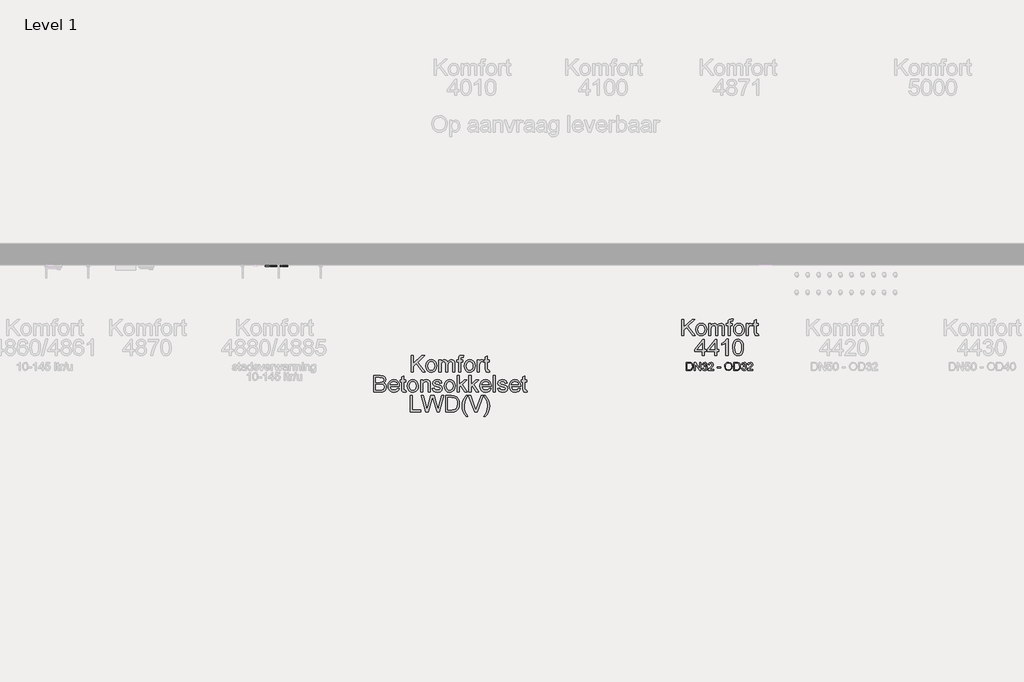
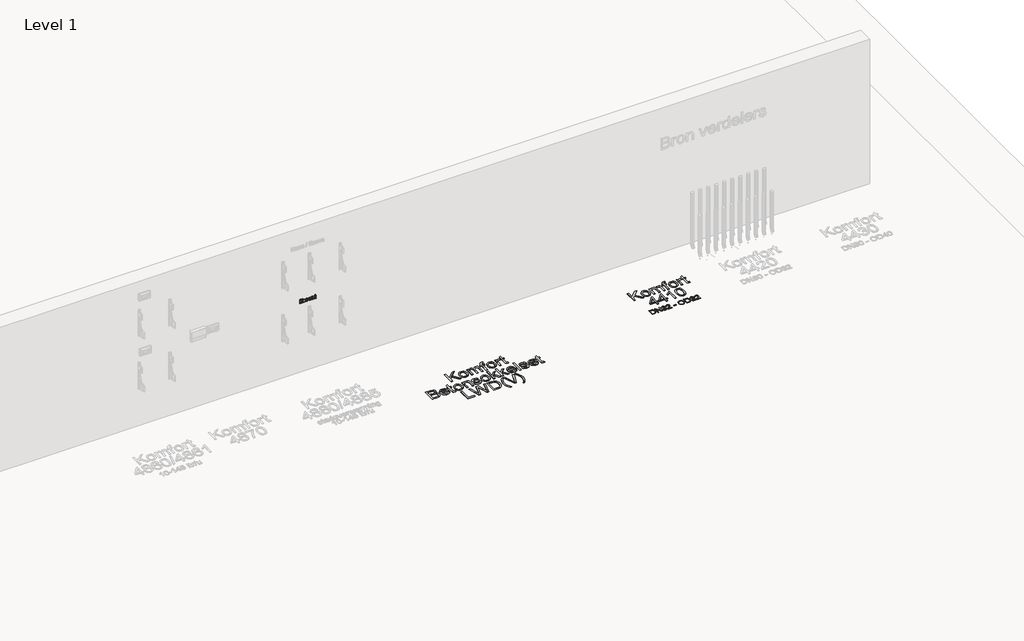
# One storey, part 26 of 34: 4 proxies.
"""IFC4 building model written with IfcOpenShell, lengths in millimetres."""

import ifcopenshell
import ifcopenshell.guid

model = None  # the IFC model being written
_history = None  # IfcOwnerHistory: only IFC2X3 demands one
_inside = {}  # id of a spatial element -> (the spatial element, [elements in it])
_under = {}  # id of a project, library or spatial element -> (it, [spatial elements below it])
_declared = {}  # id of a project -> (the project, [libraries it declares])
_typed = {}  # id of a type object -> (the type object, [elements of that type])
_made_of = {}  # id of a material, layer set ... -> (it, [elements and type objects made of it])


def new_model(schema):
    """Start an empty IFC model of exactly this schema.

    Asked for "IFC4X3", IfcOpenShell would pick the latest addendum, in which some entities
    have other attributes; the version numbers below select the first issue.
    IFC2X3 requires an IfcOwnerHistory on every rooted entity: one is made here for all.
    """
    global model, _history
    if schema == "IFC4X3":
        model = ifcopenshell.file(schema_version=(4, 3, 0, 0))
    else:
        model = ifcopenshell.file(schema=schema)
    _inside.clear()
    _under.clear()
    _declared.clear()
    _typed.clear()
    _made_of.clear()
    _history = None
    if model.schema == "IFC2X3":
        org = make("IfcOrganization", Name="unknown")
        user = make(
            "IfcPersonAndOrganization",
            ThePerson=make("IfcPerson", FamilyName="unknown"),
            TheOrganization=org,
        )
        app = make(
            "IfcApplication",
            ApplicationDeveloper=org,
            Version="unknown",
            ApplicationFullName="unknown",
            ApplicationIdentifier="unknown",
        )
        _history = make(
            "IfcOwnerHistory",
            OwningUser=user,
            OwningApplication=app,
            ChangeAction="ADDED",
            CreationDate=0,
        )
    return model


def make(cls, **values):
    """One entity of the class cls with the attributes given. An attribute that is None is left unset."""
    return model.create_entity(
        cls, **{name: value for name, value in values.items() if value is not None}
    )


def rooted(cls, **values):
    """An entity with a GlobalId (a new one), such as an element, a storey or a relation."""
    return make(cls, GlobalId=ifcopenshell.guid.new(), OwnerHistory=_history, **values)


def si_unit(unit_type, name, prefix=None):
    """IfcSIUnit, for example si_unit("LENGTHUNIT", "METRE", prefix="MILLI")."""
    return make("IfcSIUnit", UnitType=unit_type, Prefix=prefix, Name=name)


def assignment(units):
    """IfcUnitAssignment: the units of a project."""
    return None if units is None else make("IfcUnitAssignment", Units=units)


def point(xyz):
    """IfcCartesianPoint."""
    return None if xyz is None else make("IfcCartesianPoint", Coordinates=xyz)


def direction(xyz):
    """IfcDirection."""
    return None if xyz is None else make("IfcDirection", DirectionRatios=xyz)


def frame(location, z_axis=None, x_axis=None):
    """IfcAxis2Placement3D, a coordinate frame: its origin and axes. An axis left out is left unset."""
    return make(
        "IfcAxis2Placement3D",
        Location=point(location),
        Axis=direction(z_axis),
        RefDirection=direction(x_axis),
    )


def origin():
    """The frame at (0, 0, 0) with its axes left unset."""
    return frame((0.0, 0.0, 0.0))


def origin_with_axes():
    """The frame at (0, 0, 0) with the z axis (0, 0, 1) and the x axis (1, 0, 0) written out."""
    return frame((0.0, 0.0, 0.0), z_axis=(0.0, 0.0, 1.0), x_axis=(1.0, 0.0, 0.0))


def place(relative_to, where):
    """IfcLocalPlacement: puts the frame where relative to a parent placement (None: the world)."""
    return make(
        "IfcLocalPlacement", PlacementRelTo=relative_to, RelativePlacement=where
    )


def context(
    kind, dimensions, precision=None, world=None, true_north=None, identifier=None
):
    """IfcGeometricRepresentationContext, for example the 3D "Model" context."""
    return make(
        "IfcGeometricRepresentationContext",
        ContextIdentifier=identifier,
        ContextType=kind,
        CoordinateSpaceDimension=dimensions,
        Precision=precision,
        WorldCoordinateSystem=world,
        TrueNorth=true_north,
    )


def project(units=None, contexts=None):
    """IfcProject with its units and contexts."""
    return rooted(
        "IfcProject",
        Name="project",
        RepresentationContexts=contexts,
        UnitsInContext=assignment(units),
    )


def spatial(cls, under=None, at=None, **own):
    """A site, building, storey or space (cls), placed at a placement, below another one or the project."""
    s = rooted(cls, ObjectPlacement=at, **own)
    if under is not None:
        _under.setdefault(under.id(), (under, []))[1].append(s)
    return s


def polyline(points):
    """IfcPolyline through the points."""
    return make("IfcPolyline", Points=[point(p) for p in points])


def outline(outer, holes=None, kind="AREA"):
    """IfcArbitraryClosedProfileDef: a profile drawn as a closed curve; with holes, ...WithVoids."""
    if holes is None:
        return make("IfcArbitraryClosedProfileDef", ProfileType=kind, OuterCurve=outer)
    return make(
        "IfcArbitraryProfileDefWithVoids",
        ProfileType=kind,
        OuterCurve=outer,
        InnerCurves=holes,
    )


def extrude(swept, where, along, depth):
    """IfcExtrudedAreaSolid: the profile swept, set in the frame where, extruded along a direction by depth."""
    return make(
        "IfcExtrudedAreaSolid",
        SweptArea=swept,
        Position=where,
        ExtrudedDirection=direction(along),
        Depth=depth,
    )


def shape(context_of_items, identifier, shape_type, items):
    """IfcShapeRepresentation: the items that make up one representation, for example the "Body"."""
    return make(
        "IfcShapeRepresentation",
        ContextOfItems=context_of_items,
        RepresentationIdentifier=identifier,
        RepresentationType=shape_type,
        Items=items,
    )


def made_of(thing, what):
    """Note that an element or type object is made of a material, layer set ...; save() writes the relation."""
    if what is not None:
        _made_of.setdefault(what.id(), (what, []))[1].append(thing)
    return thing


def element(
    cls,
    number,
    at=None,
    inside=None,
    cuts=None,
    type_object=None,
    material=None,
    context=None,
    identifier="Body",
    shape_type=None,
    held_by="IfcProductDefinitionShape",
    body=None,
    shapes=None,
    **own,
):
    """One element of the class cls, such as IfcWall. Its Tag is "e" and its number.

    at: its placement. inside: the storey or other place that contains it. cuts: it is an
    opening in that element (IfcRelVoidsElement). A single representation is given by context,
    identifier, shape_type and body (its items); several are given by shapes. held_by: the class
    of the entity that holds the representations. save() writes the other relations.
    """
    e = rooted(cls, Tag="e%d" % number, ObjectPlacement=at, **own)
    if body is not None:
        shapes = [shape(context, identifier, shape_type, body)]
    if shapes is not None:
        e.Representation = make(held_by, Representations=shapes)
    if inside is not None:
        _inside.setdefault(inside.id(), (inside, []))[1].append(e)
    if cuts is not None:
        rooted(
            "IfcRelVoidsElement", RelatingBuildingElement=cuts, RelatedOpeningElement=e
        )
    if type_object is not None:
        _typed.setdefault(type_object.id(), (type_object, []))[1].append(e)
    return made_of(e, material)


def aggregate(whole, parts):
    """IfcRelAggregates: a whole, such as a stair, and the parts it consists of."""
    return rooted("IfcRelAggregates", RelatingObject=whole, RelatedObjects=parts)


def save(model, path):
    """Write the relations noted so far, then the file.

    IfcRelAggregates (storeys below a building ...), IfcRelContainedInSpatialStructure (elements
    in a storey), IfcRelDefinesByType, IfcRelAssociatesMaterial and IfcRelDeclares: one each for
    every whole, place, type object, material and project.
    """
    for whole, parts in _under.values():
        aggregate(whole, parts)
    for where, things in _inside.values():
        rooted(
            "IfcRelContainedInSpatialStructure",
            RelatedElements=things,
            RelatingStructure=where,
        )
    for kind, things in _typed.values():
        rooted("IfcRelDefinesByType", RelatedObjects=things, RelatingType=kind)
    for what, things in _made_of.values():
        rooted("IfcRelAssociatesMaterial", RelatedObjects=things, RelatingMaterial=what)
    for by, libraries in _declared.values():
        rooted("IfcRelDeclares", RelatingContext=by, RelatedDefinitions=libraries)
    model.write(path)


model = new_model("IFC4")

# Units and contexts
model_context = context("Model", 3, world=origin())
ifc_project = project(units=[si_unit("LENGTHUNIT", "METRE", prefix="MILLI")], contexts=[model_context])

# Site, building, storey
site = spatial("IfcSite", under=ifc_project)
building = spatial("IfcBuilding", under=site)
storey = spatial("IfcBuildingStorey", under=building, Name="Level 1", Elevation=0.0)

# Proxies
placement = place(None, origin())
element("IfcBuildingElementProxy", 1, Name="klein", ObjectType="klein", at=placement, inside=storey, context=model_context, shape_type="SweptSolid", body=[
    extrude(outline(polyline([(913.6596097, -4322.738943), (913.6596097, -4286.5850968), (919.8134559, -4286.5850968), (919.8134559, -4316.5850968), (935.9673021, -4316.5850968), (935.9673021, -4288.8927892), (942.1211482, -4288.8927892), (942.1211482, -4316.5850968), (956.7365328, -4316.5850968), (956.7365328, -4287.3543276), (962.890379, -4287.3543276), (962.890379, -4322.738943), (913.6596097, -4322.738943)])), frame((0.0, 7579.9863889, 0.0), z_axis=(0.0, 1.0, 0.0), x_axis=(0.0, 0.0, 1.0)), (0.0, 0.0, 1.0), 10.0),
    extrude(outline(polyline([(924.4288405, -4280.4312507), (915.7990328, -4275.7197122), (912.890379, -4264.9865392), (914.3987924, -4257.3663468), (918.671629, -4252.2161065), (924.5610521, -4250.4312507), (929.9096097, -4251.9516834), (933.1908597, -4256.1463949), (936.0874944, -4265.1788468), (937.3975905, -4270.4793276), (938.7557636, -4272.7750007), (940.546629, -4273.5081738), (943.2629751, -4271.7413468), (944.4288405, -4265.8519238), (943.2088886, -4260.4372603), (939.8134559, -4258.1235584), (940.5826867, -4251.9697122), (946.1055232, -4254.0850968), (949.374754, -4258.8447122), (950.5826867, -4266.332693), (949.8314847, -4271.6271642), (948.0105713, -4275.5394238), (944.5069655, -4278.5562507), (939.921629, -4279.6620199), (934.9576867, -4278.285818), (931.4420617, -4274.2413468), (928.4312444, -4264.9745199), (926.6764367, -4258.6403853), (923.9120136, -4256.5850968), (920.4985521, -4258.6283661), (919.0442251, -4264.9024045), (920.6307636, -4271.4288468), (925.1980713, -4274.2774045), (924.4288405, -4280.4312507)])), frame((0.0, 7579.9863889, 0.0), z_axis=(0.0, 1.0, 0.0), x_axis=(0.0, 0.0, 1.0)), (0.0, 0.0, 1.0), 10.0),
    extrude(outline(polyline([(924.4288405, -4245.8158661), (915.7990328, -4241.1043276), (912.890379, -4230.3711545), (914.3987924, -4222.7509622), (918.671629, -4217.6007218), (924.5610521, -4215.8158661), (929.9096097, -4217.3362988), (933.1908597, -4221.5310103), (936.0874944, -4230.5634622), (937.3975905, -4235.863943), (938.7557636, -4238.1596161), (940.546629, -4238.8927892), (943.2629751, -4237.1259622), (944.4288405, -4231.2365392), (943.2088886, -4225.8218757), (939.8134559, -4223.5081738), (940.5826867, -4217.3543276), (946.1055232, -4219.4697122), (949.374754, -4224.2293276), (950.5826867, -4231.7173084), (949.8314847, -4237.0117795), (948.0105713, -4240.9240392), (944.5069655, -4243.9408661), (939.921629, -4245.0466353), (934.9576867, -4243.6704334), (931.4420617, -4239.6259622), (928.4312444, -4230.3591353), (926.6764367, -4224.0250007), (923.9120136, -4221.9697122), (920.4985521, -4224.0129815), (919.0442251, -4230.2870199), (920.6307636, -4236.8134622), (925.1980713, -4239.6620199), (924.4288405, -4245.8158661)])), frame((0.0, 7579.9863889, 0.0), z_axis=(0.0, 1.0, 0.0), x_axis=(0.0, 0.0, 1.0)), (0.0, 0.0, 1.0), 10.0),
    extrude(outline(polyline([(924.4288405, -4183.5802892), (920.3302828, -4187.5466353), (919.0442251, -4193.5802892), (921.8206674, -4201.5069718), (929.8134559, -4205.0466353), (929.8134559, -4177.3903853), (931.4721097, -4177.3543276), (945.5706674, -4182.0237988), (950.5826867, -4194.0490392), (945.5586482, -4206.4288468), (931.4360521, -4211.2004815), (917.7641771, -4206.4769238), (912.890379, -4193.7004815), (915.7148982, -4183.1896642), (923.6596097, -4177.5466353), (924.4288405, -4183.5802892)]), holes=[polyline([(935.9673021, -4205.0466353), (942.1271578, -4201.6512026), (944.4288405, -4194.0730776), (941.5442251, -4185.9721161), (935.9673021, -4183.5081738), (935.9673021, -4205.0466353)])]), frame((0.0, 7579.9863889, 0.0), z_axis=(0.0, 1.0, 0.0), x_axis=(0.0, 0.0, 1.0)), (0.0, 0.0, 1.0), 10.0),
    extrude(outline(polyline([(913.6596097, -4171.2004815), (913.6596097, -4165.0466353), (932.8423021, -4165.0466353), (942.0129751, -4162.2401449), (944.4288405, -4155.5634622), (943.3531194, -4151.3387026), (940.4745136, -4148.832693), (935.0298021, -4148.1235584), (913.6596097, -4148.1235584), (913.6596097, -4141.9697122), (935.859129, -4141.9697122), (941.8086482, -4142.2942315), (946.3338886, -4144.1391834), (949.4108117, -4148.1055295), (950.5826867, -4153.9168276), (949.1283597, -4160.3411065), (944.765379, -4165.0466353), (949.8134559, -4165.0466353), (949.8134559, -4171.2004815), (913.6596097, -4171.2004815)])), frame((0.0, 7579.9863889, 0.0), z_axis=(0.0, 1.0, 0.0), x_axis=(0.0, 0.0, 1.0)), (0.0, 0.0, 1.0), 10.0),
    extrude(outline(polyline([(918.7918213, -4120.4312507), (919.0442251, -4123.1115392), (920.5826867, -4126.2605776), (923.7557636, -4126.5850968), (943.6596097, -4126.5850968), (943.6596097, -4120.4312507), (949.8134559, -4120.4312507), (949.8134559, -4126.5850968), (962.2173021, -4126.5850968), (958.5995136, -4132.738943), (949.8134559, -4132.738943), (949.8134559, -4137.3543276), (943.6596097, -4137.3543276), (943.6596097, -4132.738943), (923.5754751, -4132.738943), (916.5923021, -4131.9937507), (913.9120136, -4129.4216353), (912.890379, -4124.2653853), (913.4793213, -4119.6620199), (918.7918213, -4120.4312507)])), frame((0.0, 7579.9863889, 0.0), z_axis=(0.0, 1.0, 0.0), x_axis=(0.0, 0.0, 1.0)), (0.0, 0.0, 1.0), 10.0),
])
element("IfcBuildingElementProxy", 2, Name="DN", ObjectType="DN", at=placement, inside=storey, context=model_context, shape_type="SweptSolid", body=[
    extrude(outline(polyline([(-476.5761735, 6628.0579707), (-476.5761735, 6701.9041245), (-451.1014139, 6701.9041245), (-437.9223273, 6700.8404226), (-427.068962, 6695.5579707), (-418.3249716, 6682.9377784), (-415.4223273, 6665.3776822), (-417.3874716, 6650.4768409), (-422.4355485, 6639.7226341), (-429.178337, 6633.0249178), (-438.0034572, 6629.3199899), (-449.8754523, 6628.0579707), (-476.5761735, 6628.0579707)]), holes=[polyline([(-467.3454043, 6637.2887399), (-451.0112697, 6637.2887399), (-439.13026, 6638.6228745), (-432.2792985, 6642.3909034), (-426.6633129, 6651.5585716), (-424.6530966, 6665.521913), (-428.5923995, 6683.0098937), (-438.1747312, 6691.1949899), (-451.2636735, 6692.6733553), (-467.3454043, 6692.6733553), (-467.3454043, 6637.2887399)])]), origin_with_axes(), (0.0, 0.0, 1.0), 5.0),
    extrude(outline(polyline([(-402.7300197, 6628.0579707), (-402.7300197, 6701.9041245), (-392.850212, 6701.9041245), (-354.2684812, 6643.4005187), (-354.2684812, 6701.9041245), (-345.037712, 6701.9041245), (-345.037712, 6628.0579707), (-354.9175197, 6628.0579707), (-393.4992504, 6686.5796053), (-393.4992504, 6628.0579707), (-402.7300197, 6628.0579707)])), origin_with_axes(), (0.0, 0.0, 1.0), 5.0),
    extrude(outline(polyline([(-332.3454043, 6647.6733553), (-323.114635, 6648.8272014), (-318.021486, 6639.1096534), (-308.4932408, 6636.1348937), (-297.2792985, 6640.2274418), (-293.114635, 6650.3596534), (-297.2432408, 6659.9059274), (-307.7360293, 6663.6829707), (-314.208385, 6662.6733553), (-313.1807408, 6671.9041245), (-301.2276158, 6674.4461918), (-296.5761735, 6682.5952303), (-299.9475677, 6689.8157832), (-308.6374716, 6692.6733553), (-317.4355485, 6689.7887399), (-321.9607889, 6681.1348937), (-331.1915581, 6682.2887399), (-323.6374716, 6696.7659034), (-308.9619908, 6701.9041245), (-297.8291783, 6699.3710716), (-290.0407168, 6692.4479947), (-287.3454043, 6683.1360957), (-289.9055004, 6674.6264803), (-297.4776158, 6668.5147014), (-287.4175197, 6662.2046053), (-283.8838658, 6650.1973937), (-285.6506927, 6641.2009995), (-290.9511735, 6633.6829707), (-298.951474, 6628.598836), (-308.81776, 6626.9041245), (-317.7420389, 6628.3509394), (-325.0076639, 6632.6913841), (-330.060248, 6639.3305067), (-332.3454043, 6647.6733553)])), origin_with_axes(), (0.0, 0.0, 1.0), 5.0),
    extrude(outline(polyline([(-228.4992504, 6637.2887399), (-228.4992504, 6628.0579707), (-276.9607889, 6628.0579707), (-275.9692023, 6634.4221534), (-270.3622312, 6644.2208312), (-258.8057408, 6654.9209514), (-242.8682408, 6670.2995572), (-238.8838658, 6680.756288), (-242.6428802, 6689.2208312), (-252.459587, 6692.6733553), (-262.6909572, 6689.301961), (-266.5761735, 6679.9810476), (-275.8069427, 6681.1348937), (-273.5691122, 6690.0636798), (-268.7306206, 6696.5856149), (-252.2612697, 6701.9041245), (-242.9110593, 6700.4257591), (-235.7378322, 6695.990663), (-231.1742805, 6689.365062), (-229.6530966, 6681.3151822), (-231.2937216, 6672.5621774), (-236.7474475, 6663.5116966), (-249.9716062, 6650.864461), (-260.5905966, 6641.9852543), (-264.75526, 6637.2887399), (-228.4992504, 6637.2887399)])), origin_with_axes(), (0.0, 0.0, 1.0), 5.0),
    extrude(outline(polyline([(-192.7300197, 6649.9810476), (-192.7300197, 6659.2118168), (-163.8838658, 6659.2118168), (-163.8838658, 6649.9810476), (-192.7300197, 6649.9810476)])), origin_with_axes(), (0.0, 0.0, 1.0), 5.0),
    extrude(outline(polyline([(-126.9607889, 6664.0074899), (-124.4998514, 6680.3371173), (-117.1170389, 6692.6913841), (-105.8445028, 6700.466324), (-91.7143947, 6703.0579707), (-73.3430004, 6698.1901822), (-60.8670389, 6684.614461), (-56.5761735, 6664.8548457), (-61.0923995, 6644.8247976), (-73.8928802, 6631.4473937), (-91.7684812, 6626.9041245), (-110.3381927, 6631.9251582), (-122.7420389, 6645.6270812), (-126.9607889, 6664.0074899)]), holes=[polyline([(-117.7300197, 6663.9173457), (-115.8843165, 6652.3653625), (-110.3472072, 6643.5627784), (-102.024641, 6637.9918649), (-91.8225677, 6636.1348937), (-81.4717564, 6638.0098937), (-73.1356687, 6643.6348937), (-67.6391242, 6652.7079106), (-65.8069427, 6664.926961), (-68.943962, 6680.161336), (-78.1116302, 6690.2484755), (-91.6603081, 6693.8272014), (-101.5896951, 6692.103193), (-110.0317023, 6686.9311678), (-115.8054403, 6677.7296954), (-117.7300197, 6663.9173457)])]), origin_with_axes(), (0.0, 0.0, 1.0), 5.0),
    extrude(outline(polyline([(-43.8838658, 6628.0579707), (-43.8838658, 6701.9041245), (-18.4091062, 6701.9041245), (-5.2300197, 6700.8404226), (5.6233457, 6695.5579707), (14.3673361, 6682.9377784), (17.2699803, 6665.3776822), (15.3048361, 6650.4768409), (10.2567592, 6639.7226341), (3.5139707, 6633.0249178), (-5.3111495, 6629.3199899), (-17.1831447, 6628.0579707), (-43.8838658, 6628.0579707)]), holes=[polyline([(-34.6530966, 6637.2887399), (-18.318962, 6637.2887399), (-6.4379523, 6638.6228745), (0.4130092, 6642.3909034), (6.0289948, 6651.5585716), (8.0392111, 6665.521913), (4.0999082, 6683.0098937), (-5.4824235, 6691.1949899), (-18.5713658, 6692.6733553), (-34.6530966, 6692.6733553), (-34.6530966, 6637.2887399)])]), origin_with_axes(), (0.0, 0.0, 1.0), 5.0),
    extrude(outline(polyline([(26.5007496, 6647.6733553), (35.7315188, 6648.8272014), (40.8246678, 6639.1096534), (50.352913, 6636.1348937), (61.5668553, 6640.2274418), (65.7315188, 6650.3596534), (61.602913, 6659.9059274), (51.1101246, 6663.6829707), (44.6377688, 6662.6733553), (45.665413, 6671.9041245), (57.618538, 6674.4461918), (62.2699803, 6682.5952303), (58.8985861, 6689.8157832), (50.2086823, 6692.6733553), (41.4106053, 6689.7887399), (36.885365, 6681.1348937), (27.6545957, 6682.2887399), (35.2086823, 6696.7659034), (49.884163, 6701.9041245), (61.0169755, 6699.3710716), (68.8054371, 6692.4479947), (71.5007496, 6683.1360957), (68.9406534, 6674.6264803), (61.368538, 6668.5147014), (71.4286342, 6662.2046053), (74.962288, 6650.1973937), (73.1954611, 6641.2009995), (67.8949803, 6633.6829707), (59.8946799, 6628.598836), (50.0283938, 6626.9041245), (41.104115, 6628.3509394), (33.83849, 6632.6913841), (28.7859058, 6639.3305067), (26.5007496, 6647.6733553)])), origin_with_axes(), (0.0, 0.0, 1.0), 5.0),
    extrude(outline(polyline([(130.3469034, 6637.2887399), (130.3469034, 6628.0579707), (81.885365, 6628.0579707), (82.8769515, 6634.4221534), (88.4839227, 6644.2208312), (100.040413, 6654.9209514), (115.977913, 6670.2995572), (119.962288, 6680.756288), (116.2032736, 6689.2208312), (106.3865669, 6692.6733553), (96.1551967, 6689.301961), (92.2699803, 6679.9810476), (83.0392111, 6681.1348937), (85.2770416, 6690.0636798), (90.1155332, 6696.5856149), (106.5848842, 6701.9041245), (115.9350945, 6700.4257591), (123.1083217, 6695.990663), (127.6718734, 6689.365062), (129.1930573, 6681.3151822), (127.5524323, 6672.5621774), (122.0987063, 6663.5116966), (108.8745477, 6650.864461), (98.2555573, 6641.9852543), (94.0908938, 6637.2887399), (130.3469034, 6637.2887399)])), origin_with_axes(), (0.0, 0.0, 1.0), 5.0),
])
element("IfcBuildingElementProxy", 3, Name="type", ObjectType="type", at=placement, inside=storey, context=model_context, shape_type="SweptSolid", body=[
    extrude(outline(polyline([(-518.6915581, 6948.0579707), (-518.6915581, 7095.7502784), (-500.2300197, 7095.7502784), (-500.2300197, 7023.4546053), (-424.5088658, 7095.7502784), (-398.6915581, 7095.7502784), (-462.2612697, 7035.0291245), (-396.3838658, 6948.0579707), (-418.9559812, 6948.0579707), (-475.350212, 7022.553163), (-500.2300197, 6998.8272014), (-500.2300197, 6948.0579707), (-518.6915581, 6948.0579707)])), origin_with_axes(), (0.0, 0.0, 1.0), 5.0),
    extrude(outline(polyline([(-389.4607889, 7002.2887399), (-385.4673995, 7028.4395812), (-373.4872312, 7046.8199899), (-358.6855485, 7055.8253985), (-340.9631927, 7058.8272014), (-321.5686615, 7055.1718529), (-306.0773754, 7044.2058072), (-295.9226278, 7026.794449), (-292.537712, 7003.803163), (-294.0341062, 6985.1523216), (-298.5232889, 6970.9546053), (-305.8745509, 6960.3220933), (-315.9571831, 6952.3668649), (-327.9328442, 6947.404425), (-340.9631927, 6945.7502784), (-360.592099, 6949.3921053), (-376.0653562, 6960.317586), (-386.1119307, 6978.0940284), (-389.4607889, 7002.2887399)]), holes=[polyline([(-370.9992504, 7002.3247976), (-368.8628322, 6985.6165644), (-362.4535773, 6973.7130187), (-352.8081447, 6966.5871173), (-340.9631927, 6964.2118168), (-329.1723273, 6966.6006389), (-319.5449235, 6973.7671053), (-313.1356687, 6985.8284034), (-310.9992504, 7002.9017207), (-313.1491903, 7019.123175), (-319.59901, 7030.864461), (-329.2399355, 7037.9903625), (-340.9631927, 7040.365663), (-352.8081447, 7037.9993769), (-362.4535773, 7030.9005187), (-368.8628322, 7019.0240163), (-370.9992504, 7002.3247976)])]), origin_with_axes(), (0.0, 0.0, 1.0), 5.0),
    extrude(outline(polyline([(-271.7684812, 6948.0579707), (-271.7684812, 7056.5195091), (-253.3069427, 7056.5195091), (-253.3069427, 7038.6709514), (-240.614635, 7053.2923457), (-222.5497312, 7058.8272014), (-212.2823033, 7057.4164442), (-204.052135, 7053.1841726), (-193.8838658, 7037.3728745), (-179.4788177, 7053.4636197), (-161.287712, 7058.8272014), (-147.4100076, 7056.5961317), (-137.147087, 7049.9029226), (-130.8054403, 7038.5672856), (-128.6915581, 7022.4089322), (-128.6915581, 6948.0579707), (-147.1530966, 6948.0579707), (-147.1530966, 7014.4762399), (-148.865837, 7029.8909034), (-155.06776, 7037.4810476), (-165.614635, 7040.365663), (-175.6161374, 7038.5177062), (-183.7696831, 7032.973836), (-189.1918586, 7023.3554466), (-190.9992504, 7009.2839322), (-190.9992504, 6948.0579707), (-209.4607889, 6948.0579707), (-209.4607889, 7016.5315284), (-213.7336254, 7034.4161437), (-219.3721471, 7038.8782832), (-227.7420389, 7040.365663), (-241.4079043, 7036.3993168), (-250.4944427, 7024.7887399), (-253.3069427, 7002.7574899), (-253.3069427, 6948.0579707), (-271.7684812, 6948.0579707)])), origin_with_axes(), (0.0, 0.0, 1.0), 5.0),
    extrude(outline(polyline([(-96.3838658, 6948.0579707), (-96.3838658, 7038.0579707), (-112.537712, 7038.0579707), (-112.537712, 7056.5195091), (-96.3838658, 7056.5195091), (-96.3838658, 7067.4449899), (-94.4367504, 7082.8416245), (-84.989635, 7093.8392207), (-66.3838658, 7098.0579707), (-49.5449235, 7096.0387399), (-52.2492504, 7078.7310476), (-62.8862697, 7079.5964322), (-74.5148754, 7076.5315284), (-77.9223273, 7065.1012399), (-77.9223273, 7056.5195091), (-57.1530966, 7056.5195091), (-57.1530966, 7038.0579707), (-77.9223273, 7038.0579707), (-77.9223273, 6948.0579707), (-96.3838658, 6948.0579707)])), origin_with_axes(), (0.0, 0.0, 1.0), 5.0),
    extrude(outline(polyline([(-45.614635, 7002.2887399), (-41.6212456, 7028.4395812), (-29.6410773, 7046.8199899), (-14.8393947, 7055.8253985), (2.8829611, 7058.8272014), (22.2774924, 7055.1718529), (37.7687784, 7044.2058072), (47.923526, 7026.794449), (51.3084419, 7003.803163), (49.8120477, 6985.1523216), (45.322865, 6970.9546053), (37.9716029, 6960.3220933), (27.8889707, 6952.3668649), (15.9133097, 6947.404425), (2.8829611, 6945.7502784), (-16.7459451, 6949.3921053), (-32.2192023, 6960.317586), (-42.2657769, 6978.0940284), (-45.614635, 7002.2887399)]), holes=[polyline([(-27.1530966, 7002.3247976), (-25.0166783, 6985.6165644), (-18.6074235, 6973.7130187), (-8.9619908, 6966.5871173), (2.8829611, 6964.2118168), (14.6738265, 6966.6006389), (24.3012303, 6973.7671053), (30.7104852, 6985.8284034), (32.8469034, 7002.9017207), (30.6969635, 7019.123175), (24.2471438, 7030.864461), (14.6062183, 7037.9903625), (2.8829611, 7040.365663), (-8.9619908, 7037.9993769), (-18.6074235, 7030.9005187), (-25.0166783, 7019.0240163), (-27.1530966, 7002.3247976)])]), origin_with_axes(), (0.0, 0.0, 1.0), 5.0),
    extrude(outline(polyline([(72.0776727, 6948.0579707), (72.0776727, 7056.5195091), (88.2315188, 7056.5195091), (88.2315188, 7040.473836), (99.697865, 7055.2574899), (111.2363265, 7058.8272014), (129.7699803, 7053.130086), (123.604115, 7036.5796053), (110.6233457, 7040.365663), (100.1846438, 7036.723836), (93.5319996, 7026.6276822), (90.5392111, 7005.0651822), (90.5392111, 6948.0579707), (72.0776727, 6948.0579707)])), origin_with_axes(), (0.0, 0.0, 1.0), 5.0),
    extrude(outline(polyline([(180.5392111, 6963.4546053), (182.8469034, 6947.5171053), (169.0368073, 6945.7502784), (153.5680573, 6948.8151822), (145.8517111, 6956.8560476), (143.6161342, 6977.8055668), (143.6161342, 7038.0579707), (129.7699803, 7038.0579707), (129.7699803, 7056.5195091), (143.6161342, 7056.5195091), (143.6161342, 7082.8776822), (162.0776727, 7093.7310476), (162.0776727, 7056.5195091), (180.5392111, 7056.5195091), (180.5392111, 7038.0579707), (162.0776727, 7038.0579707), (162.0776727, 6978.3464322), (163.0512303, 6968.8272014), (166.2062784, 6965.4558072), (172.4983457, 6964.2118168), (180.5392111, 6963.4546053)])), origin_with_axes(), (0.0, 0.0, 1.0), 5.0),
    extrude(outline(polyline([(-331.7684812, 6765.7502784), (-331.7684812, 6800.365663), (-398.6915581, 6800.365663), (-398.6915581, 6818.8272014), (-327.1530966, 6911.1348937), (-313.3069427, 6911.1348937), (-313.3069427, 6818.8272014), (-294.8454043, 6818.8272014), (-294.8454043, 6800.365663), (-313.3069427, 6800.365663), (-313.3069427, 6765.7502784), (-331.7684812, 6765.7502784)]), holes=[polyline([(-331.7684812, 6818.8272014), (-331.7684812, 6875.8704707), (-375.975212, 6818.8272014), (-331.7684812, 6818.8272014)])]), origin_with_axes(), (0.0, 0.0, 1.0), 5.0),
    extrude(outline(polyline([(-218.6915581, 6765.7502784), (-218.6915581, 6800.365663), (-285.614635, 6800.365663), (-285.614635, 6818.8272014), (-214.0761735, 6911.1348937), (-200.2300197, 6911.1348937), (-200.2300197, 6818.8272014), (-181.7684812, 6818.8272014), (-181.7684812, 6800.365663), (-200.2300197, 6800.365663), (-200.2300197, 6765.7502784), (-218.6915581, 6765.7502784)]), holes=[polyline([(-218.6915581, 6818.8272014), (-218.6915581, 6875.8704707), (-262.8982889, 6818.8272014), (-218.6915581, 6818.8272014)])]), origin_with_axes(), (0.0, 0.0, 1.0), 5.0),
    extrude(outline(polyline([(-96.3838658, 6765.7502784), (-114.8454043, 6765.7502784), (-114.8454043, 6880.8464322), (-132.333385, 6868.3884995), (-151.7684812, 6859.067586), (-151.7684812, 6876.5195091), (-124.7071831, 6893.7911437), (-108.2829043, 6913.442586), (-96.3838658, 6913.442586), (-96.3838658, 6765.7502784)])), origin_with_axes(), (0.0, 0.0, 1.0), 5.0),
    extrude(outline(polyline([(-52.537712, 6838.4065284), (-51.1810413, 6862.0468529), (-47.1110293, 6880.9005187), (-40.3682408, 6895.2559875), (-30.9932408, 6905.4017207), (-18.9184211, 6911.4323697), (-4.0761735, 6913.442586), (17.4863265, 6908.6829707), (32.3781534, 6894.9630187), (41.0319996, 6873.1120572), (44.385365, 6838.4065284), (43.0422159, 6814.9014202), (39.0127688, 6796.0928264), (32.3105452, 6781.723836), (22.9490669, 6771.537538), (10.8472039, 6765.466324), (-4.0761735, 6763.442586), (-23.2588658, 6766.958211), (-37.8261735, 6777.505086), (-48.8598273, 6802.4840524), (-52.537712, 6838.4065284)]), holes=[polyline([(-34.0761735, 6838.442586), (-31.912712, 6809.4026221), (-25.4223273, 6792.5952303), (-15.7588658, 6784.576901), (-4.0761735, 6781.9041245), (7.6065188, 6784.5859154), (17.2699803, 6792.631288), (23.760365, 6809.4476942), (25.9238265, 6838.442586), (23.8324803, 6866.8290043), (17.5584419, 6883.7671053), (7.9130092, 6892.177562), (-4.2925197, 6894.9810476), (-15.84901, 6892.5110957), (-25.1338658, 6885.1012399), (-31.8405966, 6867.1084514), (-34.0761735, 6838.442586)])]), origin_with_axes(), (0.0, 0.0, 1.0), 5.0),
])
element("IfcBuildingElementProxy", 4, Name="type", ObjectType="type", at=placement, inside=storey, context=model_context, shape_type="SweptSolid", body=[
    extrude(outline(polyline([(-2989.168628, 6613.8281899), (-2989.168628, 6764.5126551), (-2970.3330698, 6764.5126551), (-2970.3330698, 6690.7523151), (-2893.0778508, 6764.5126551), (-2866.7375, 6764.5126551), (-2931.5950957, 6702.5613271), (-2864.3830552, 6613.8281899), (-2887.4124681, 6613.8281899), (-2944.9492122, 6689.8326101), (-2970.3330698, 6665.6259748), (-2970.3330698, 6613.8281899), (-2989.168628, 6613.8281899)])), origin_with_axes(), (0.0, 0.0, 1.0), 5.0),
    extrude(outline(polyline([(-2857.3197209, 6669.157642), (-2853.2454278, 6695.8382837), (-2841.0225485, 6714.5910684), (-2825.9209926, 6723.7789212), (-2807.8395926, 6726.8415388), (-2788.0521397, 6723.1121351), (-2772.2470095, 6711.9239239), (-2761.8865328, 6694.1598221), (-2758.4330406, 6670.7027464), (-2759.9597509, 6651.6740502), (-2764.5398817, 6637.1886966), (-2772.0400759, 6626.3407763), (-2782.3269762, 6618.2243797), (-2794.545257, 6613.1614038), (-2807.8395926, 6611.4737451), (-2827.8661687, 6615.1893533), (-2843.6529048, 6626.3361777), (-2853.9030169, 6644.4727601), (-2857.3197209, 6669.157642)]), holes=[polyline([(-2838.4841628, 6669.1944302), (-2836.3044619, 6652.1476982), (-2829.7653595, 6640.0029939), (-2819.9245161, 6632.7327259), (-2807.8395926, 6630.3093033), (-2795.8098513, 6632.7465215), (-2785.987402, 6640.0581762), (-2779.4482996, 6652.3638289), (-2777.2685988, 6669.7830414), (-2779.4620952, 6686.3331326), (-2786.0425843, 6698.3122901), (-2795.8788292, 6705.582558), (-2807.8395926, 6708.0059807), (-2819.9245161, 6705.5917551), (-2829.7653595, 6698.3490783), (-2836.3044619, 6686.2319651), (-2838.4841628, 6669.1944302)])]), origin_with_axes(), (0.0, 0.0, 1.0), 5.0),
    extrude(outline(polyline([(-2737.2430377, 6613.8281899), (-2737.2430377, 6724.487094), (-2718.4074795, 6724.487094), (-2718.4074795, 6706.2769353), (-2705.4580333, 6721.1945502), (-2687.0271453, 6726.8415388), (-2676.5517055, 6725.4022005), (-2668.154799, 6721.0841856), (-2657.7805267, 6704.9525601), (-2643.083641, 6721.3692941), (-2624.5239944, 6726.8415388), (-2610.3651361, 6724.565269), (-2599.8942948, 6717.7364594), (-2593.4241702, 6706.1711692), (-2591.267462, 6689.6854573), (-2591.267462, 6613.8281899), (-2610.1030202, 6613.8281899), (-2610.1030202, 6681.5920534), (-2611.8504596, 6697.3190087), (-2618.1780299, 6705.0629247), (-2628.9385783, 6708.0059807), (-2639.1427051, 6706.1205854), (-2647.4614368, 6700.4643998), (-2652.9934623, 6690.6511475), (-2654.8374708, 6676.2945527), (-2654.8374708, 6613.8281899), (-2673.6730289, 6613.8281899), (-2673.6730289, 6683.6889808), (-2678.0324306, 6701.9359277), (-2683.7851853, 6706.4884674), (-2692.3246461, 6708.0059807), (-2706.2673737, 6703.9592787), (-2715.538, 6692.1134785), (-2718.4074795, 6669.6358886), (-2718.4074795, 6613.8281899), (-2737.2430377, 6613.8281899)])), origin_with_axes(), (0.0, 0.0, 1.0), 5.0),
    extrude(outline(polyline([(-2558.3052352, 6613.8281899), (-2558.3052352, 6705.6515359), (-2574.7863486, 6705.6515359), (-2574.7863486, 6724.487094), (-2558.3052352, 6724.487094), (-2558.3052352, 6735.6339185), (-2556.3186725, 6751.3424797), (-2546.6801642, 6762.5628805), (-2527.6974532, 6766.8670999), (-2510.5173641, 6764.8069607), (-2513.276479, 6747.1486249), (-2524.1289979, 6748.0315417), (-2535.9931922, 6744.9045448), (-2539.4696771, 6733.2426855), (-2539.4696771, 6724.487094), (-2518.2796742, 6724.487094), (-2518.2796742, 6705.6515359), (-2539.4696771, 6705.6515359), (-2539.4696771, 6613.8281899), (-2558.3052352, 6613.8281899)])), origin_with_axes(), (0.0, 0.0, 1.0), 5.0),
    extrude(outline(polyline([(-2506.5074503, 6669.157642), (-2502.4331572, 6695.8382837), (-2490.2102779, 6714.5910684), (-2475.108722, 6723.7789212), (-2457.027322, 6726.8415388), (-2437.2398691, 6723.1121351), (-2421.4347389, 6711.9239239), (-2411.0742622, 6694.1598221), (-2407.62077, 6670.7027464), (-2409.1474803, 6651.6740502), (-2413.7276111, 6637.1886966), (-2421.2278053, 6626.3407763), (-2431.5147056, 6618.2243797), (-2443.7329864, 6613.1614038), (-2457.027322, 6611.4737451), (-2477.0538981, 6615.1893533), (-2492.8406342, 6626.3361777), (-2503.0907463, 6644.4727601), (-2506.5074503, 6669.157642)]), holes=[polyline([(-2487.6718922, 6669.1944302), (-2485.4921913, 6652.1476982), (-2478.9530889, 6640.0029939), (-2469.1122455, 6632.7327259), (-2457.027322, 6630.3093033), (-2444.9975807, 6632.7465215), (-2435.1751314, 6640.0581762), (-2428.636029, 6652.3638289), (-2426.4563282, 6669.7830414), (-2428.6498246, 6686.3331326), (-2435.2303137, 6698.3122901), (-2445.0665586, 6705.582558), (-2457.027322, 6708.0059807), (-2469.1122455, 6705.5917551), (-2478.9530889, 6698.3490783), (-2485.4921913, 6686.2319651), (-2487.6718922, 6669.1944302)])]), origin_with_axes(), (0.0, 0.0, 1.0), 5.0),
    extrude(outline(polyline([(-2386.4307671, 6613.8281899), (-2386.4307671, 6724.487094), (-2369.9496537, 6724.487094), (-2369.9496537, 6708.1163453), (-2358.2510063, 6723.1995071), (-2346.4787824, 6726.8415388), (-2327.5696479, 6721.0290033), (-2333.86043, 6704.1432197), (-2347.1041818, 6708.0059807), (-2357.7543656, 6704.2903725), (-2364.5417884, 6693.9896766), (-2367.5952089, 6671.9903333), (-2367.5952089, 6613.8281899), (-2386.4307671, 6613.8281899)])), origin_with_axes(), (0.0, 0.0, 1.0), 5.0),
    extrude(outline(polyline([(-2275.7718629, 6629.5367511), (-2273.4174182, 6613.2763669), (-2287.5072986, 6611.4737451), (-2303.2894362, 6614.6007421), (-2311.1621109, 6622.8045106), (-2313.4429792, 6644.1784545), (-2313.4429792, 6705.6515359), (-2327.5696479, 6705.6515359), (-2327.5696479, 6724.487094), (-2313.4429792, 6724.487094), (-2313.4429792, 6751.3792679), (-2294.6074211, 6762.4525159), (-2294.6074211, 6724.487094), (-2275.7718629, 6724.487094), (-2275.7718629, 6705.6515359), (-2294.6074211, 6705.6515359), (-2294.6074211, 6644.7302775), (-2293.6141397, 6635.0181928), (-2290.3951722, 6631.5784962), (-2283.9756314, 6630.3093033), (-2275.7718629, 6629.5367511)])), origin_with_axes(), (0.0, 0.0, 1.0), 5.0),
    extrude(outline(polyline([(-3331.7403419, 6430.8659631), (-3331.7403419, 6581.5504284), (-3274.240386, 6581.5504284), (-3246.0790193, 6577.1174503), (-3236.615255, 6571.4934543), (-3229.4507531, 6563.4874224), (-3223.4358825, 6544.2104058), (-3228.4942599, 6526.6072524), (-3243.7797568, 6513.27153), (-3233.1065805, 6507.6981178), (-3225.2201102, 6499.2184378), (-3220.3502723, 6488.3935101), (-3218.726993, 6475.7843547), (-3223.159971, 6455.5324509), (-3234.1412486, 6441.1114767), (-3250.5303915, 6433.4595312), (-3274.6818444, 6430.8659631), (-3331.7403419, 6430.8659631)]), holes=[polyline([(-3312.9047837, 6449.7015213), (-3274.2771742, 6449.7015213), (-3260.2976584, 6450.4372853), (-3248.4702523, 6454.5391695), (-3240.6343658, 6462.9084849), (-3237.5625511, 6475.6004137), (-3241.1677947, 6490.2421172), (-3252.848048, 6498.9793145), (-3276.1165842, 6501.4993062), (-3312.9047837, 6501.4993062), (-3312.9047837, 6449.7015213)]), polyline([(-3312.9047837, 6520.3348644), (-3278.5078172, 6520.3348644), (-3258.4214603, 6521.9535451), (-3246.3365367, 6528.9249089), (-3242.2714407, 6541.1937735), (-3246.0606252, 6553.4810321), (-3256.9131441, 6560.7467015), (-3281.1197794, 6562.7148702), (-3312.9047837, 6562.7148702), (-3312.9047837, 6520.3348644)])]), origin_with_axes(), (0.0, 0.0, 1.0), 5.0),
    extrude(outline(polyline([(-3117.7065971, 6463.8281899), (-3099.2389209, 6461.4737451), (-3105.8929865, 6447.5586087), (-3116.5109806, 6437.1567452), (-3130.8537799, 6430.6728251), (-3148.6822611, 6428.5115184), (-3170.782772, 6432.2409221), (-3187.7881172, 6443.4291333), (-3198.631439, 6461.349585), (-3202.2458796, 6485.2757102), (-3198.5946508, 6510.0065773), (-3187.6409644, 6528.5018446), (-3170.8655454, 6540.0349452), (-3149.7491189, 6543.879312), (-3129.2902814, 6540.0441422), (-3112.9425253, 6528.5386328), (-3102.2233636, 6510.0801537), (-3098.6503097, 6485.3860748), (-3098.7606743, 6480.3093033), (-3183.4103214, 6480.3093033), (-3180.1499673, 6466.2102258), (-3172.5761967, 6455.8451506), (-3161.6455029, 6449.471595), (-3148.3143791, 6447.3470765), (-3129.8467029, 6451.2834139), (-3117.7065971, 6463.8281899)]), holes=[polyline([(-3183.4103214, 6499.1448614), (-3117.4858679, 6499.1448614), (-3120.0334507, 6509.0960694), (-3125.0274488, 6516.214586), (-3136.0087264, 6522.8364619), (-3149.8226953, 6525.0437539), (-3162.5192226, 6523.2825188), (-3173.0176551, 6517.9988137), (-3180.3155142, 6509.7628555), (-3183.4103214, 6499.1448614)])]), origin_with_axes(), (0.0, 0.0, 1.0), 5.0),
    extrude(outline(polyline([(-3039.7891905, 6446.5745243), (-3037.4347458, 6430.3141401), (-3051.5246262, 6428.5115184), (-3067.3067638, 6431.6385153), (-3075.1794385, 6439.8422838), (-3077.4603068, 6461.2162277), (-3077.4603068, 6522.6893091), (-3091.5869754, 6522.6893091), (-3091.5869754, 6541.5248673), (-3077.4603068, 6541.5248673), (-3077.4603068, 6568.4170411), (-3058.6247487, 6579.4902892), (-3058.6247487, 6541.5248673), (-3039.7891905, 6541.5248673), (-3039.7891905, 6522.6893091), (-3058.6247487, 6522.6893091), (-3058.6247487, 6461.7680507), (-3057.6314673, 6452.0559661), (-3054.4124998, 6448.6162694), (-3047.992959, 6447.3470765), (-3039.7891905, 6446.5745243)])), origin_with_axes(), (0.0, 0.0, 1.0), 5.0),
    extrude(outline(polyline([(-3025.6625219, 6486.1954152), (-3021.5882288, 6512.8760569), (-3009.3653495, 6531.6288416), (-2994.2637936, 6540.8166944), (-2976.1823936, 6543.879312), (-2956.3949407, 6540.1499083), (-2940.5898105, 6528.9616971), (-2930.2293338, 6511.1975953), (-2926.7758416, 6487.7405196), (-2928.3025519, 6468.7118234), (-2932.8826827, 6454.2264698), (-2940.3828769, 6443.3785495), (-2950.6697772, 6435.262153), (-2962.888058, 6430.199177), (-2976.1823936, 6428.5115184), (-2996.2089697, 6432.2271265), (-3011.9957058, 6443.373951), (-3022.2458179, 6461.5105333), (-3025.6625219, 6486.1954152)]), holes=[polyline([(-3006.8269638, 6486.2322034), (-3004.6472629, 6469.1854715), (-2998.1081605, 6457.0407671), (-2988.2673171, 6449.7704992), (-2976.1823936, 6447.3470765), (-2964.1526523, 6449.7842947), (-2954.330203, 6457.0959494), (-2947.7911006, 6469.4016021), (-2945.6113998, 6486.8208146), (-2947.8048962, 6503.3709059), (-2954.3853853, 6515.3500633), (-2964.2216302, 6522.6203313), (-2976.1823936, 6525.0437539), (-2988.2673171, 6522.6295283), (-2998.1081605, 6515.3868515), (-3004.6472629, 6503.2697383), (-3006.8269638, 6486.2322034)])]), origin_with_axes(), (0.0, 0.0, 1.0), 5.0),
    extrude(outline(polyline([(-2905.5858387, 6430.8659631), (-2905.5858387, 6541.5248673), (-2886.7502805, 6541.5248673), (-2886.7502805, 6526.0738235), (-2872.3477004, 6539.4279399), (-2852.6844078, 6543.879312), (-2834.8973133, 6540.2924626), (-2822.7572075, 6530.8746835), (-2817.1102188, 6517.0239264), (-2816.1169375, 6498.8137676), (-2816.1169375, 6430.8659631), (-2834.9524956, 6430.8659631), (-2834.9524956, 6496.2753819), (-2837.1229994, 6512.9404363), (-2844.793339, 6521.75121), (-2857.7243911, 6525.0437539), (-2868.7562524, 6523.1951469), (-2878.1602359, 6517.6493258), (-2884.6027694, 6506.9347627), (-2886.7502805, 6489.5799296), (-2886.7502805, 6430.8659631), (-2905.5858387, 6430.8659631)])), origin_with_axes(), (0.0, 0.0, 1.0), 5.0),
    extrude(outline(polyline([(-2797.2813793, 6463.8281899), (-2778.4458211, 6466.1826347), (-2775.475174, 6458.126019), (-2769.7270179, 6452.2031188), (-2749.7510255, 6447.3470765), (-2730.5475854, 6451.7984487), (-2724.2935915, 6462.2462973), (-2725.866287, 6467.0471574), (-2730.5843736, 6470.7075832), (-2749.9717547, 6476.0786603), (-2778.3354565, 6485.2941043), (-2790.7146857, 6496.0546527), (-2794.9269345, 6511.2481791), (-2791.5424202, 6525.2828772), (-2782.3085821, 6536.0066374), (-2770.3340232, 6541.5800496), (-2754.1288213, 6543.879312), (-2731.209773, 6540.182098), (-2716.641646, 6530.1757077), (-2710.1669228, 6513.27153), (-2729.002481, 6510.9170853), (-2736.0842094, 6521.3097516), (-2752.6572933, 6525.0437539), (-2770.683511, 6521.4752985), (-2776.0913764, 6513.1611655), (-2773.8472962, 6507.6797237), (-2766.8207501, 6503.5226572), (-2750.5971541, 6499.5127434), (-2722.9508222, 6490.6467873), (-2710.1117405, 6480.6036089), (-2705.4580333, 6464.2328601), (-2710.9210809, 6446.2066423), (-2726.6848244, 6433.1284374), (-2750.0085429, 6428.5115184), (-2769.0004509, 6430.7372044), (-2782.8604051, 6437.4142626), (-2792.1126373, 6448.4691166), (-2797.2813793, 6463.8281899)])), origin_with_axes(), (0.0, 0.0, 1.0), 5.0),
    extrude(outline(polyline([(-2688.9769199, 6486.1954152), (-2684.9026268, 6512.8760569), (-2672.6797475, 6531.6288416), (-2657.5781916, 6540.8166944), (-2639.4967916, 6543.879312), (-2619.7093388, 6540.1499083), (-2603.9042085, 6528.9616971), (-2593.5437318, 6511.1975953), (-2590.0902396, 6487.7405196), (-2591.6169499, 6468.7118234), (-2596.1970807, 6454.2264698), (-2603.6972749, 6443.3785495), (-2613.9841752, 6435.262153), (-2626.202456, 6430.199177), (-2639.4967916, 6428.5115184), (-2659.5233677, 6432.2271265), (-2675.3101038, 6443.373951), (-2685.5602159, 6461.5105333), (-2688.9769199, 6486.1954152)]), holes=[polyline([(-2670.1413618, 6486.2322034), (-2667.9616609, 6469.1854715), (-2661.4225585, 6457.0407671), (-2651.5817151, 6449.7704992), (-2639.4967916, 6447.3470765), (-2627.4670503, 6449.7842947), (-2617.6446011, 6457.0959494), (-2611.1054986, 6469.4016021), (-2608.9257978, 6486.8208146), (-2611.1192942, 6503.3709059), (-2617.6997834, 6515.3500633), (-2627.5360282, 6522.6203313), (-2639.4967916, 6525.0437539), (-2651.5817151, 6522.6295283), (-2661.4225585, 6515.3868515), (-2667.9616609, 6503.2697383), (-2670.1413618, 6486.2322034)])]), origin_with_axes(), (0.0, 0.0, 1.0), 5.0),
    extrude(outline(polyline([(-2568.9002367, 6430.8659631), (-2568.9002367, 6581.5504284), (-2550.0646785, 6581.5504284), (-2550.0646785, 6500.5796012), (-2507.8318255, 6541.5248673), (-2481.7857802, 6541.5248673), (-2524.5336681, 6500.0645664), (-2479.4313355, 6430.8659631), (-2501.4306788, 6430.8659631), (-2538.0349373, 6486.9679674), (-2550.0646785, 6475.3061081), (-2550.0646785, 6430.8659631), (-2568.9002367, 6430.8659631)])), origin_with_axes(), (0.0, 0.0, 1.0), 5.0),
    extrude(outline(polyline([(-2462.9502221, 6430.8659631), (-2462.9502221, 6581.5504284), (-2444.1146639, 6581.5504284), (-2444.1146639, 6500.5796012), (-2401.8818109, 6541.5248673), (-2375.8357656, 6541.5248673), (-2418.5836535, 6500.0645664), (-2373.4813209, 6430.8659631), (-2395.4806642, 6430.8659631), (-2432.0849227, 6486.9679674), (-2444.1146639, 6475.3061081), (-2444.1146639, 6430.8659631), (-2462.9502221, 6430.8659631)])), origin_with_axes(), (0.0, 0.0, 1.0), 5.0),
    extrude(outline(polyline([(-2279.5242593, 6463.8281899), (-2261.0565831, 6461.4737451), (-2267.7106487, 6447.5586087), (-2278.3286428, 6437.1567452), (-2292.6714421, 6430.6728251), (-2310.4999233, 6428.5115184), (-2332.6004341, 6432.2409221), (-2349.6057794, 6443.4291333), (-2360.4491012, 6461.349585), (-2364.0635418, 6485.2757102), (-2360.412313, 6510.0065773), (-2349.4586266, 6528.5018446), (-2332.6832076, 6540.0349452), (-2311.5667811, 6543.879312), (-2291.1079436, 6540.0441422), (-2274.7601874, 6528.5386328), (-2264.0410258, 6510.0801537), (-2260.4679719, 6485.3860748), (-2260.5783365, 6480.3093033), (-2345.2279836, 6480.3093033), (-2341.9676294, 6466.2102258), (-2334.3938589, 6455.8451506), (-2323.4631651, 6449.471595), (-2310.1320413, 6447.3470765), (-2291.6643651, 6451.2834139), (-2279.5242593, 6463.8281899)]), holes=[polyline([(-2345.2279836, 6499.1448614), (-2279.3035301, 6499.1448614), (-2281.8511129, 6509.0960694), (-2286.845111, 6516.214586), (-2297.8263885, 6522.8364619), (-2311.6403575, 6525.0437539), (-2324.3368848, 6523.2825188), (-2334.8353173, 6517.9988137), (-2342.1331763, 6509.7628555), (-2345.2279836, 6499.1448614)])]), origin_with_axes(), (0.0, 0.0, 1.0), 5.0),
    extrude(outline(polyline([(-2241.6324138, 6430.8659631), (-2241.6324138, 6581.5504284), (-2222.7968556, 6581.5504284), (-2222.7968556, 6430.8659631), (-2241.6324138, 6430.8659631)])), origin_with_axes(), (0.0, 0.0, 1.0), 5.0),
    extrude(outline(polyline([(-2201.6068527, 6463.8281899), (-2182.7712946, 6466.1826347), (-2179.8006474, 6458.126019), (-2174.0524913, 6452.2031188), (-2154.0764989, 6447.3470765), (-2134.8730588, 6451.7984487), (-2128.6190649, 6462.2462973), (-2130.1917604, 6467.0471574), (-2134.909847, 6470.7075832), (-2154.2972281, 6476.0786603), (-2182.66093, 6485.2941043), (-2195.0401591, 6496.0546527), (-2199.2524079, 6511.2481791), (-2195.8678936, 6525.2828772), (-2186.6340555, 6536.0066374), (-2174.6594966, 6541.5800496), (-2158.4542947, 6543.879312), (-2135.5352464, 6540.182098), (-2120.9671194, 6530.1757077), (-2114.4923963, 6513.27153), (-2133.3279544, 6510.9170853), (-2140.4096828, 6521.3097516), (-2156.9827667, 6525.0437539), (-2175.0089845, 6521.4752985), (-2180.4168498, 6513.1611655), (-2178.1727696, 6507.6797237), (-2171.1462235, 6503.5226572), (-2154.9226275, 6499.5127434), (-2127.2762956, 6490.6467873), (-2114.437214, 6480.6036089), (-2109.7835067, 6464.2328601), (-2115.2465543, 6446.2066423), (-2131.0102978, 6433.1284374), (-2154.3340163, 6428.5115184), (-2173.3259243, 6430.7372044), (-2187.1858785, 6437.4142626), (-2196.4381107, 6448.4691166), (-2201.6068527, 6463.8281899)])), origin_with_axes(), (0.0, 0.0, 1.0), 5.0),
    extrude(outline(polyline([(-2011.1175556, 6463.8281899), (-1992.6498794, 6461.4737451), (-1999.303945, 6447.5586087), (-2009.9219391, 6437.1567452), (-2024.2647384, 6430.6728251), (-2042.0932196, 6428.5115184), (-2064.1937305, 6432.2409221), (-2081.1990757, 6443.4291333), (-2092.0423975, 6461.349585), (-2095.6568381, 6485.2757102), (-2092.0056093, 6510.0065773), (-2081.0519229, 6528.5018446), (-2064.2765039, 6540.0349452), (-2043.1600774, 6543.879312), (-2022.7012399, 6540.0441422), (-2006.3534838, 6528.5386328), (-1995.6343221, 6510.0801537), (-1992.0612683, 6485.3860748), (-1992.1716329, 6480.3093033), (-2076.8212799, 6480.3093033), (-2073.5609258, 6466.2102258), (-2065.9871552, 6455.8451506), (-2055.0564614, 6449.471595), (-2041.7253376, 6447.3470765), (-2023.2576614, 6451.2834139), (-2011.1175556, 6463.8281899)]), holes=[polyline([(-2076.8212799, 6499.1448614), (-2010.8968264, 6499.1448614), (-2013.4444092, 6509.0960694), (-2018.4384073, 6516.214586), (-2029.4196849, 6522.8364619), (-2043.2336538, 6525.0437539), (-2055.9301811, 6523.2825188), (-2066.4286136, 6517.9988137), (-2073.7264727, 6509.7628555), (-2076.8212799, 6499.1448614)])]), origin_with_axes(), (0.0, 0.0, 1.0), 5.0),
    extrude(outline(polyline([(-1933.200149, 6446.5745243), (-1930.8457043, 6430.3141401), (-1944.9355847, 6428.5115184), (-1960.7177223, 6431.6385153), (-1968.590397, 6439.8422838), (-1970.8712653, 6461.2162277), (-1970.8712653, 6522.6893091), (-1984.9979339, 6522.6893091), (-1984.9979339, 6541.5248673), (-1970.8712653, 6541.5248673), (-1970.8712653, 6568.4170411), (-1952.0357072, 6579.4902892), (-1952.0357072, 6541.5248673), (-1933.200149, 6541.5248673), (-1933.200149, 6522.6893091), (-1952.0357072, 6522.6893091), (-1952.0357072, 6461.7680507), (-1951.0424258, 6452.0559661), (-1947.8234583, 6448.6162694), (-1941.4039175, 6447.3470765), (-1933.200149, 6446.5745243)])), origin_with_axes(), (0.0, 0.0, 1.0), 5.0),
    extrude(outline(polyline([(-2999.7636294, 6247.9037364), (-2999.7636294, 6398.5882016), (-2980.9280713, 6398.5882016), (-2980.9280713, 6266.7392945), (-2905.5858387, 6266.7392945), (-2905.5858387, 6247.9037364), (-2999.7636294, 6247.9037364)])), origin_with_axes(), (0.0, 0.0, 1.0), 5.0),
    extrude(outline(polyline([(-2857.4300855, 6247.9037364), (-2898.5225044, 6398.5882016), (-2879.098335, 6398.5882016), (-2855.2595817, 6299.5543685), (-2847.9019418, 6268.9833747), (-2840.0292671, 6296.0227013), (-2810.1572491, 6398.5882016), (-2782.1614293, 6398.5882016), (-2760.4563916, 6324.2392504), (-2744.306372, 6268.9833747), (-2737.1694613, 6298.6714517), (-2713.1099788, 6398.5882016), (-2693.6858095, 6398.5882016), (-2734.8150165, 6247.9037364), (-2754.9381617, 6247.9037364), (-2791.0641736, 6364.1544468), (-2796.1041569, 6380.3780428), (-2801.7695396, 6360.8435089), (-2834.6949782, 6247.9037364), (-2857.4300855, 6247.9037364)])), origin_with_axes(), (0.0, 0.0, 1.0), 5.0),
    extrude(outline(polyline([(-2674.8502513, 6247.9037364), (-2674.8502513, 6398.5882016), (-2622.8685254, 6398.5882016), (-2595.9763515, 6396.4176978), (-2573.8298554, 6385.6387554), (-2563.4095979, 6374.1608371), (-2555.9875787, 6359.8870157), (-2551.5454036, 6343.0932026), (-2550.0646785, 6324.0553094), (-2554.0745923, 6293.6498625), (-2564.3752882, 6271.7057014), (-2578.1340748, 6258.0388853), (-2596.1418984, 6250.4789103), (-2620.3669278, 6247.9037364), (-2674.8502513, 6247.9037364)]), holes=[polyline([(-2656.0146932, 6266.7392945), (-2622.6845844, 6266.7392945), (-2598.4411609, 6269.4616213), (-2584.4616451, 6277.150355), (-2573.0021209, 6295.8571544), (-2568.9002367, 6324.349615), (-2570.9097921, 6344.8774303), (-2576.9384583, 6360.0341685), (-2585.8458011, 6370.445229), (-2596.4913863, 6376.7360111), (-2623.1996192, 6379.7526434), (-2656.0146932, 6379.7526434), (-2656.0146932, 6266.7392945)])]), origin_with_axes(), (0.0, 0.0, 1.0), 5.0),
    extrude(outline(polyline([(-2488.8491145, 6205.5237305), (-2503.4448327, 6226.0055606), (-2515.5941356, 6249.7063581), (-2523.788707, 6275.4764919), (-2526.5202308, 6302.1663306), (-2524.4784858, 6325.5728226), (-2518.3532506, 6347.967639), (-2506.1947506, 6373.3331026), (-2488.8491145, 6398.5882016), (-2474.7224459, 6398.5882016), (-2492.3439935, 6368.7529718), (-2502.938995, 6339.837447), (-2507.6846727, 6302.0559661), (-2505.6245335, 6277.9091116), (-2499.444116, 6253.7714542), (-2489.1434201, 6229.6429938), (-2474.7224459, 6205.5237305), (-2488.8491145, 6205.5237305)])), origin_with_axes(), (0.0, 0.0, 1.0), 5.0),
    extrude(outline(polyline([(-2409.0187216, 6247.9037364), (-2468.9834868, 6398.5882016), (-2448.8235535, 6398.5882016), (-2408.6876278, 6290.0262248), (-2400.5574357, 6265.5620721), (-2392.5376082, 6290.0262248), (-2352.2913179, 6398.5882016), (-2332.1313846, 6398.5882016), (-2389.557764, 6247.9037364), (-2409.0187216, 6247.9037364)])), origin_with_axes(), (0.0, 0.0, 1.0), 5.0),
    extrude(outline(polyline([(-2312.2657569, 6205.5237305), (-2326.3924255, 6205.5237305), (-2311.9714513, 6229.6429938), (-2301.6707554, 6253.7714542), (-2295.4903379, 6277.9091116), (-2293.4301987, 6302.0559661), (-2298.1758764, 6339.5063532), (-2308.6605133, 6368.4586662), (-2326.3924255, 6398.5882016), (-2312.2657569, 6398.5882016), (-2294.9201208, 6373.3331026), (-2282.7616208, 6347.967639), (-2276.6363856, 6325.5728226), (-2274.5946406, 6302.1663306), (-2277.3399599, 6275.4764919), (-2285.5759181, 6249.7063581), (-2297.7390166, 6226.0055606), (-2312.2657569, 6205.5237305)])), origin_with_axes(), (0.0, 0.0, 1.0), 5.0),
])

save(model, "model.ifc")
